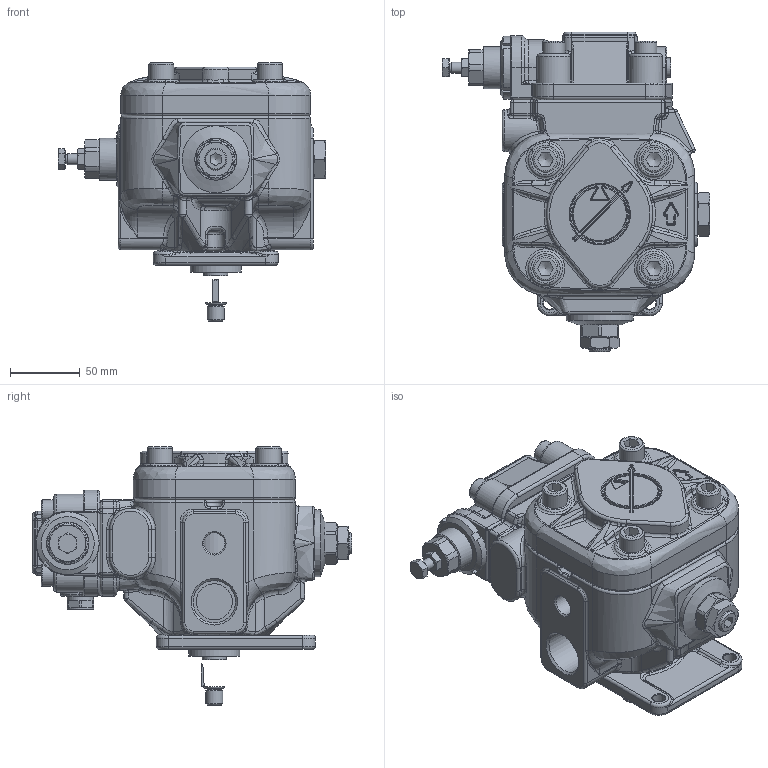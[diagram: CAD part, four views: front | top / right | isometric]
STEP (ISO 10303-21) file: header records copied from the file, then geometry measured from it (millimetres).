
FILE_DESCRIPTION(/* description */ (''),/* implementation_level */ '2;1');
FILE_NAME(/* name */ 'W:\Tecnico\Archivio\Berarma\Dimensioni Pompe\3D Export\Montaggio 3D semplificato\PLP-PHP 05\PHP05 FGR2HRM.stp',/* time_stamp */ '2018-10-10T15:00:16+02:00',/* author */ ('marcop'),/* organization */ (''),/* preprocessor_version */ 'ST-DEVELOPER v17',/* originating_system */ 'Autodesk Inventor 2018',/* authorisation */ '');
FILE_SCHEMA (('AUTOMOTIVE_DESIGN { 1 0 10303 214 3 1 1 }'));
Products named in the file (1): PHP05_Shrinkwrap_1
Bounding box: 192 x 229.1 x 185 mm (x, y, z)
Volume: 2034319.3 mm3; surface area: 206898.2 mm2
Topology: 2 solids, 2 shells, 1743 faces, 4253 edges, 2501 vertices
Faces by surface type: plane 447, cylinder 417, bspline 389, torus 235, cone 200, sphere 55
Full cylindrical faces by diameter (mm): 1.7 x4, 2.5 x1, 6 x1, 6.5 x2, 8 x1, 8.5 x4, 9 x8, 10.25 x1, 12 x3, 13 x1, 14 x1, 14.5 x1, 14.95 x1, 15 x1, 15.5 x1, 16 x5, 16.376 x1, 16.5 x4, 17 x1, 17.25 x1, 18 x5, 19 x2, 20 x1, 24.117 x1, 25 x1, 26 x1, 28 x2, 30 x2, 30.291 x1, 35 x1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
Entity records: 65039 total; most frequent: CARTESIAN_POINT 25162, ORIENTED_EDGE 8320, DIRECTION 7641, EDGE_CURVE 4160, AXIS2_PLACEMENT_3D 3223, VERTEX_POINT 2501, EDGE_LOOP 1833, CIRCLE 1828
